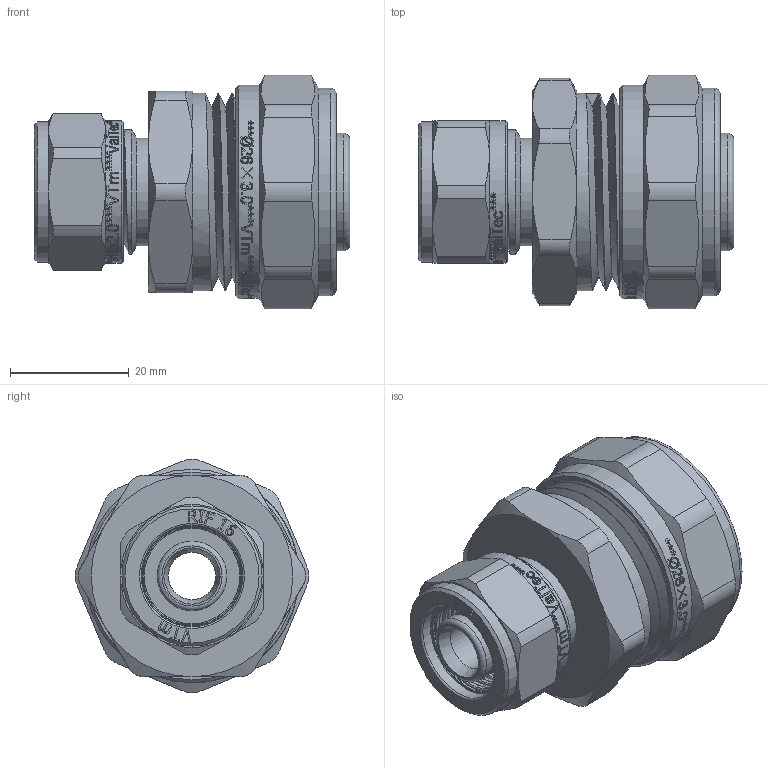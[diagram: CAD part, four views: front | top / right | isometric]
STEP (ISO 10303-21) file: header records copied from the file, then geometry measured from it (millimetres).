
FILE_DESCRIPTION(/* description */ (''),/* implementation_level */ '2;1');
FILE_NAME(/* name */ 'E:\Артём\00000\Работа удаленка\Обжимные фитинги\VTm.303.N.002616.stp',/* time_stamp */ '2020-06-10T15:41:19+03:00',/* author */ ('BeN_GaN'),/* organization */ (''),/* preprocessor_version */ 'ST-DEVELOPER v18',/* originating_system */ 'Autodesk Inventor 2020',/* authorisation */ '');
FILE_SCHEMA (('AUTOMOTIVE_DESIGN { 1 0 10303 214 3 1 1 }'));
Products named in the file (1): VTm.303.N.002616
Bounding box: 53.27 x 39.39 x 39.39 mm (x, y, z)
Volume: 26078.6 mm3; surface area: 18105.7 mm2
Topology: 1 solids, 2 shells, 1292 faces, 3627 edges, 2449 vertices
Faces by surface type: bspline 708, plane 341, cylinder 146, torus 49, cone 48
Full cylindrical faces by diameter (mm): 8 x1, 9.4 x2, 11.75 x4, 15 x1, 16.124 x4, 16.2 x1, 16.724 x5, 17.124 x1, 17.4 x2, 18.2 x1, 18.724 x1, 19.8 x5, 21 x1, 23.624 x1, 24 x1, 24.516 x4, 25.435 x5, 26.2 x1, 26.7 x1, 28.5 x1, 28.7 x2, 30.5 x1, 33.3 x2, 35 x1, 36 x1
Entity records: 53518 total; most frequent: CARTESIAN_POINT 24674, ORIENTED_EDGE 7254, DIRECTION 3843, EDGE_CURVE 3627, VERTEX_POINT 2449, B_SPLINE_CURVE_WITH_KNOTS 1487, LINE 1479, VECTOR 1479
